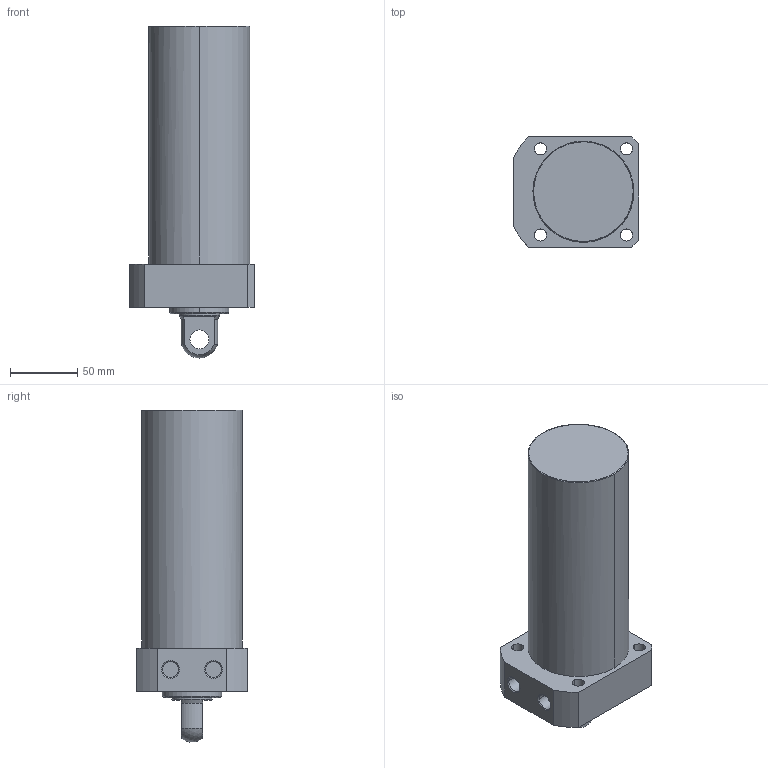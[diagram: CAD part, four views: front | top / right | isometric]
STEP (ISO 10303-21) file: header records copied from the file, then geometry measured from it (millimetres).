
FILE_DESCRIPTION((' '),'2;1');
FILE_NAME( 'TLLR-075CP-145.STEP.stp', '2025-10-24T16:35:16', (' '), ('--- Datakit www.datakit.com---'), ' Datakit CrossCadWare V2024.1 Dec 21 2023', 'Mastercam 2025', ' ');
FILE_SCHEMA(('AUTOMOTIVE_DESIGN { 1 0 10303 214 1 1 1 1 }'));
Length unit declared in the file: millimetre
Products named in the file (1): TLLR-075CP-145
Bounding box: 93 x 82 x 246.9 mm (x, y, z)
Volume: 1025412.1 mm3; surface area: 74943.2 mm2
Topology: 1 solids, 1 shells, 57 faces, 164 edges, 116 vertices
Faces by surface type: cylinder 28, plane 18, cone 8, torus 2, sphere 1
Entity records: 2006 total; most frequent: DIRECTION 378, CARTESIAN_POINT 350, ORIENTED_EDGE 328, EDGE_CURVE 164, AXIS2_PLACEMENT_3D 160, VERTEX_POINT 116, CIRCLE 102, EDGE_LOOP 74
